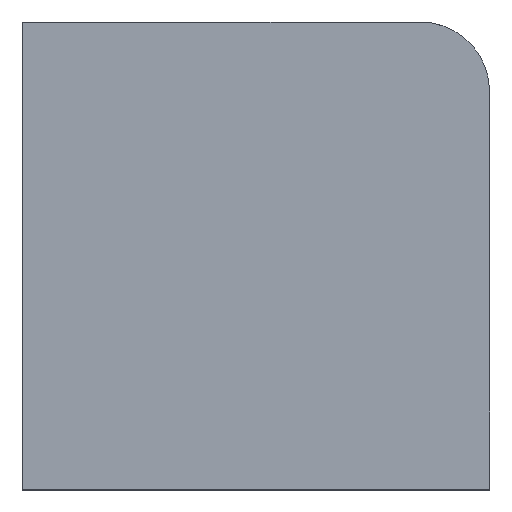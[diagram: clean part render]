
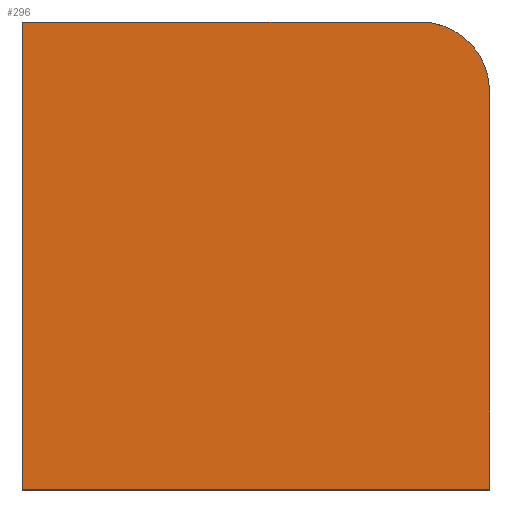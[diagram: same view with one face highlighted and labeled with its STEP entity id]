
A CAD part, top view. The second image highlights one B-rep face of the part: STEP entity #296.
In plain terms, the highlighted planar face has unit normal (0, 0, 1).
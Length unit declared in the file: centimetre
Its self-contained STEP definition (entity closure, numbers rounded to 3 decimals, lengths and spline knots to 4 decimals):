
#4 = ORIENTED_EDGE ( 'NONE', *, *, #818, .T. ) ;
#24 = ORIENTED_EDGE ( 'NONE', *, *, #360, .T. ) ;
#30 = VERTEX_POINT ( 'NONE', #488 ) ;
#42 = AXIS2_PLACEMENT_3D ( 'NONE', #238, #310, #442 ) ;
#56 = LINE ( 'NONE', #795, #541 ) ;
#57 = CARTESIAN_POINT ( 'NONE',  ( 1000., 0., 1000. ) ) ;
#77 = DIRECTION ( 'NONE',  ( 0., 0., 1. ) ) ;
#86 = ORIENTED_EDGE ( 'NONE', *, *, #482, .T. ) ;
#144 = PLANE ( 'NONE',  #637 ) ;
#149 = ORIENTED_EDGE ( 'NONE', *, *, #231, .T. ) ;
#182 = CARTESIAN_POINT ( 'NONE',  ( 851.8059, 1000., 1000. ) ) ;
#189 = LINE ( 'NONE', #449, #308 ) ;
#231 = EDGE_CURVE ( 'NONE', #673, #232, #56, .T. ) ;
#232 = VERTEX_POINT ( 'NONE', #717 ) ;
#238 = CARTESIAN_POINT ( 'NONE',  ( 851.8059, 851.8059, 1000. ) ) ;
#262 = DIRECTION ( 'NONE',  ( 1., 0., 0. ) ) ;
#263 = ORIENTED_EDGE ( 'NONE', *, *, #820, .T. ) ;
#288 = DIRECTION ( 'NONE',  ( 0., -1., 0. ) ) ;
#296 = ADVANCED_FACE ( 'NONE', ( #842 ), #144, .T. ) ;
#308 = VECTOR ( 'NONE', #707, 100. ) ;
#310 = DIRECTION ( 'NONE',  ( 0., 0., 1. ) ) ;
#331 = VERTEX_POINT ( 'NONE', #649 ) ;
#343 = LINE ( 'NONE', #411, #470 ) ;
#360 = EDGE_CURVE ( 'NONE', #331, #30, #556, .T. ) ;
#400 = VECTOR ( 'NONE', #288, 100. ) ;
#405 = DIRECTION ( 'NONE',  ( 0., 1., 0. ) ) ;
#411 = CARTESIAN_POINT ( 'NONE',  ( 0., 1000., 1000. ) ) ;
#442 = DIRECTION ( 'NONE',  ( 1., 0., 0. ) ) ;
#449 = CARTESIAN_POINT ( 'NONE',  ( 0., 0., 1000. ) ) ;
#470 = VECTOR ( 'NONE', #595, 100. ) ;
#482 = EDGE_CURVE ( 'NONE', #232, #579, #833, .T. ) ;
#488 = CARTESIAN_POINT ( 'NONE',  ( 0., 0., 1000. ) ) ;
#539 = CARTESIAN_POINT ( 'NONE',  ( 0., 1000., 1000. ) ) ;
#541 = VECTOR ( 'NONE', #405, 100. ) ;
#556 = LINE ( 'NONE', #539, #400 ) ;
#579 = VERTEX_POINT ( 'NONE', #182 ) ;
#595 = DIRECTION ( 'NONE',  ( -1., 0., 0. ) ) ;
#597 = CARTESIAN_POINT ( 'NONE',  ( 0., 0., 1000. ) ) ;
#637 = AXIS2_PLACEMENT_3D ( 'NONE', #597, #77, #262 ) ;
#649 = CARTESIAN_POINT ( 'NONE',  ( 0., 1000., 1000. ) ) ;
#673 = VERTEX_POINT ( 'NONE', #57 ) ;
#707 = DIRECTION ( 'NONE',  ( 1., 0., 0. ) ) ;
#717 = CARTESIAN_POINT ( 'NONE',  ( 1000., 851.8059, 1000. ) ) ;
#758 = EDGE_LOOP ( 'NONE', ( #149, #86, #263, #24, #4 ) ) ;
#795 = CARTESIAN_POINT ( 'NONE',  ( 1000., 1000., 1000. ) ) ;
#818 = EDGE_CURVE ( 'NONE', #30, #673, #189, .T. ) ;
#820 = EDGE_CURVE ( 'NONE', #579, #331, #343, .T. ) ;
#833 = CIRCLE ( 'NONE', #42, 148.1941 ) ;
#842 = FACE_OUTER_BOUND ( 'NONE', #758, .T. ) ;
